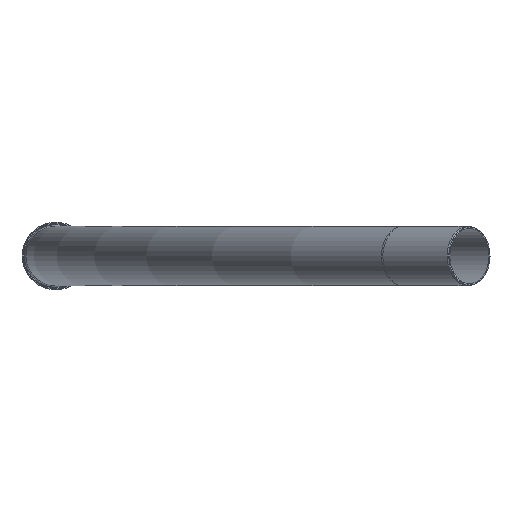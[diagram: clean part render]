
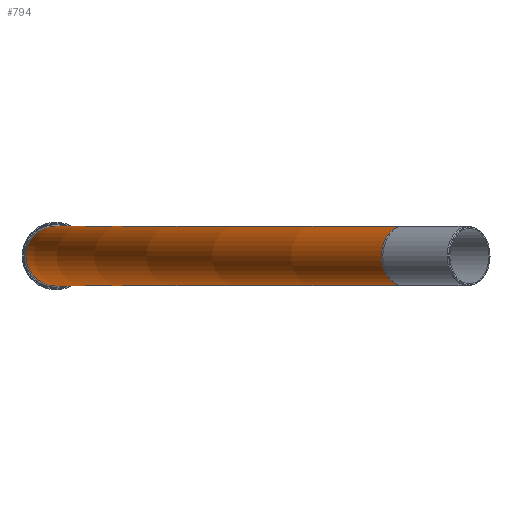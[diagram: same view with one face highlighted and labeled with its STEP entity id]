
A CAD part, front view. The second image highlights one B-rep face of the part: STEP entity #794.
In plain terms, the highlighted toroidal (fillet/blend) face has major radius 5000 mm and minor radius 125 mm.
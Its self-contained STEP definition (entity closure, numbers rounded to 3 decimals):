
#79=FACE_OUTER_BOUND('',#118,.T.);
#118=EDGE_LOOP('',(#504,#505,#506,#507,#508));
#165=CIRCLE('',#858,125.);
#166=CIRCLE('',#859,4875.);
#167=CIRCLE('',#860,125.);
#168=CIRCLE('',#861,125.);
#276=VERTEX_POINT('',#1335);
#277=VERTEX_POINT('',#1337);
#278=VERTEX_POINT('',#1339);
#373=EDGE_CURVE('',#276,#276,#165,.T.);
#374=EDGE_CURVE('',#276,#277,#166,.T.);
#375=EDGE_CURVE('',#278,#277,#167,.T.);
#376=EDGE_CURVE('',#277,#278,#168,.T.);
#504=ORIENTED_EDGE('',*,*,#373,.F.);
#505=ORIENTED_EDGE('',*,*,#374,.T.);
#506=ORIENTED_EDGE('',*,*,#375,.F.);
#507=ORIENTED_EDGE('',*,*,#376,.F.);
#508=ORIENTED_EDGE('',*,*,#374,.F.);
#760=TOROIDAL_SURFACE('',#857,5000.,125.);
#794=ADVANCED_FACE('',(#79),#760,.T.);
#857=AXIS2_PLACEMENT_3D('',#1334,#1015,#1016);
#858=AXIS2_PLACEMENT_3D('',#1336,#1017,#1018);
#859=AXIS2_PLACEMENT_3D('',#1338,#1019,#1020);
#860=AXIS2_PLACEMENT_3D('',#1340,#1021,#1022);
#861=AXIS2_PLACEMENT_3D('',#1341,#1023,#1024);
#1015=DIRECTION('center_axis',(0.,0.,1.));
#1016=DIRECTION('ref_axis',(1.,0.,0.));
#1017=DIRECTION('center_axis',(0.707,-0.707,0.));
#1018=DIRECTION('ref_axis',(0.707,0.707,0.));
#1019=DIRECTION('center_axis',(0.,0.,-1.));
#1020=DIRECTION('ref_axis',(1.,0.,0.));
#1021=DIRECTION('center_axis',(0.,1.,0.));
#1022=DIRECTION('ref_axis',(1.,0.,0.));
#1023=DIRECTION('center_axis',(0.,1.,0.));
#1024=DIRECTION('ref_axis',(1.,0.,0.));
#1334=CARTESIAN_POINT('Origin',(5000.,-493.,0.));
#1335=CARTESIAN_POINT('',(1552.854,-3940.146,0.));
#1336=CARTESIAN_POINT('Origin',(1464.466,-4028.534,0.));
#1337=CARTESIAN_POINT('',(125.,-493.,0.));
#1338=CARTESIAN_POINT('Origin',(5000.,-493.,0.));
#1339=CARTESIAN_POINT('',(0.,-493.,125.));
#1340=CARTESIAN_POINT('Origin',(0.,-493.,
0.));
#1341=CARTESIAN_POINT('Origin',(0.,-493.,
0.));
